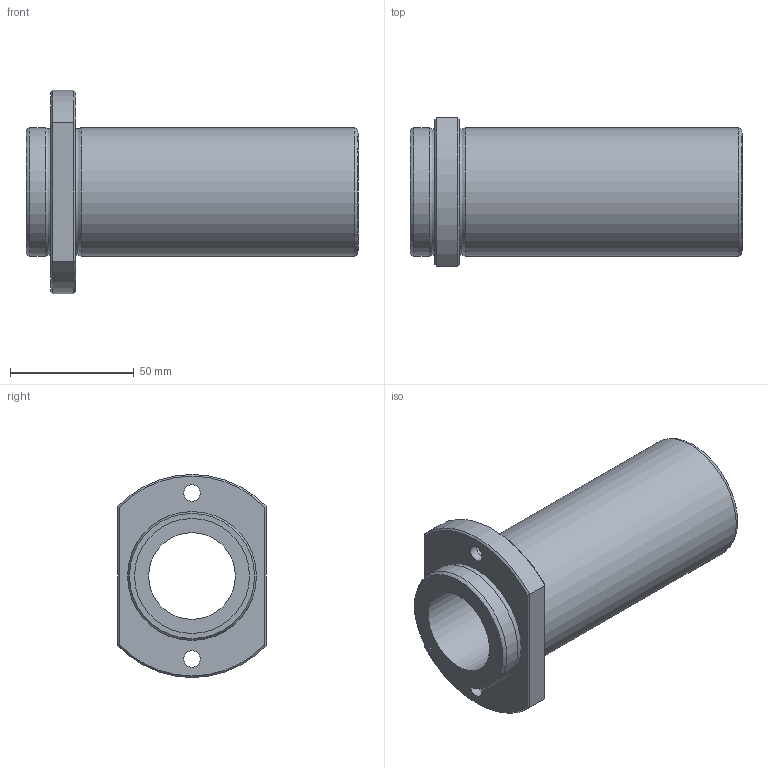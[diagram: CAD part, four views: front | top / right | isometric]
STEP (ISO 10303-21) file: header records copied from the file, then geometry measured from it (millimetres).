
FILE_DESCRIPTION((''),'2;1');
FILE_NAME('D:\製品 (図面)\カタログ用3D\リニアベアリング関連\STEP形式\LFDTB\LFDTB35.stp','2010-06-03T09:53:31',('Tsuchiya'),(''),'Autodesk Inventor 10','Autodesk Inventor 10','');
FILE_SCHEMA(('AUTOMOTIVE_DESIGN { 1 0 10303 214 1 1 1 1 }'));
Length unit declared in the file: millimetre
Products named in the file (1): LFDTB35
Bounding box: 134 x 60 x 82 mm (x, y, z)
Volume: 176615.2 mm3; surface area: 44610.9 mm2
Topology: 1 solids, 1 shells, 33 faces, 63 edges, 38 vertices
Faces by surface type: plane 12, bspline 8, cylinder 7, cone 4, torus 2
Full cylindrical faces by diameter (mm): 35 x1, 46.4 x2, 52 x2
Entity records: 977 total; most frequent: CARTESIAN_POINT 344, DIRECTION 124, ORIENTED_EDGE 100, EDGE_LOOP 58, AXIS2_PLACEMENT_3D 56, EDGE_CURVE 50, VERTEX_POINT 38, FACE_OUTER_BOUND 33
